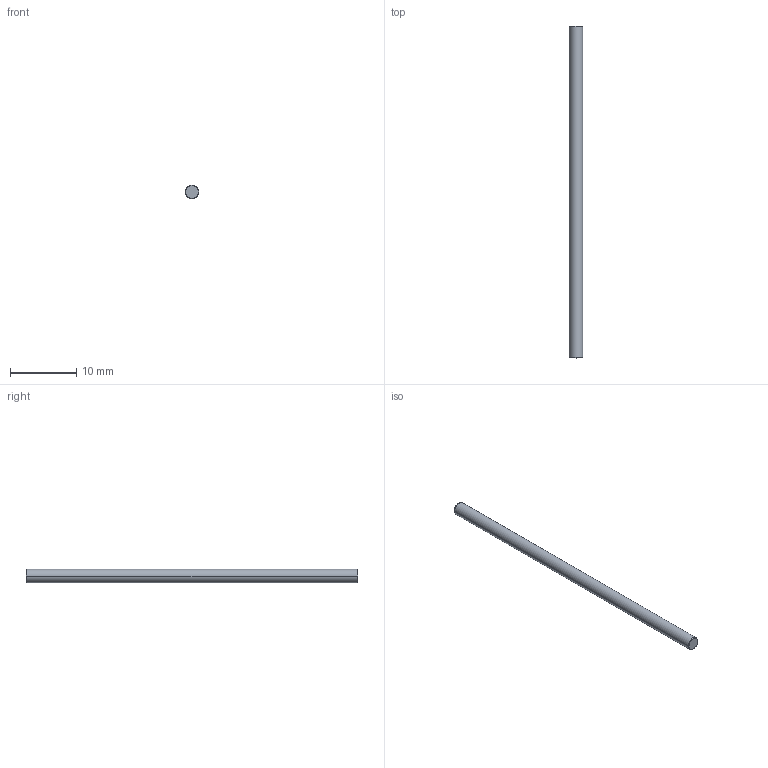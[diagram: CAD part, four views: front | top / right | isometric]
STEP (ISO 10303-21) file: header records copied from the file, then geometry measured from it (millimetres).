
FILE_DESCRIPTION((''),'2;1');
FILE_NAME('2MM00','2024-04-23T11:38:09',('qinghui.yi'),(''),'CREO PARAMETRIC BY PTC INC, 2019164','CREO PARAMETRIC BY PTC INC, 2019164','');
FILE_SCHEMA(('CONFIG_CONTROL_DESIGN','SHAPE_APPEARANCE_LAYERS_GROUPS'));
Length unit declared in the file: millimetre
Products named in the file (1): 2MM00
Bounding box: 2 x 50 x 2 mm (x, y, z)
Volume: 157 mm3; surface area: 319.8 mm2
Topology: 1 solids, 1 shells, 8 faces, 17 edges, 14 vertices
Faces by surface type: cone 4, plane 2, cylinder 2
Entity records: 593 total; most frequent: COLOUR_RGB 312, DIRECTION 43, CARTESIAN_POINT 34, ORIENTED_EDGE 28, AXIS2_PLACEMENT_3D 17, EDGE_CURVE 14, VECTOR 9, LINE 9
